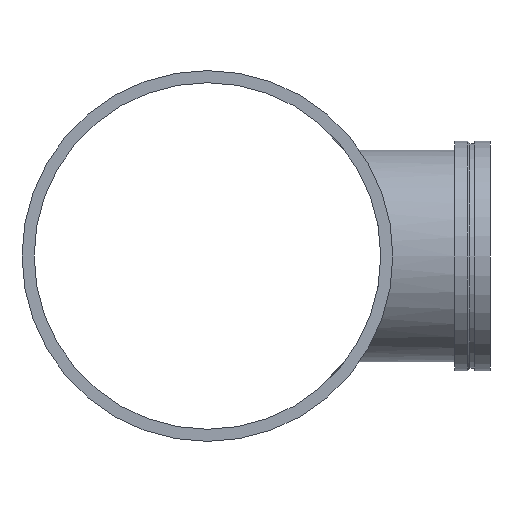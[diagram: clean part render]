
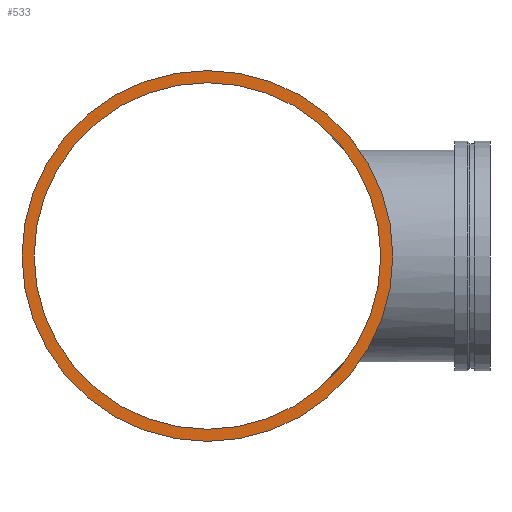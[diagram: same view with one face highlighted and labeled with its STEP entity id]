
A CAD part, left-side view. The second image highlights one B-rep face of the part: STEP entity #533.
In plain terms, the highlighted planar face has unit normal (-1, 0, 0).
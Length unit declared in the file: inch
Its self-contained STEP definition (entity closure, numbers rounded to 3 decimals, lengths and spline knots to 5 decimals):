
#58=FACE_BOUND('',#128,.T.);
#67=PLANE('',#626);
#92=FACE_OUTER_BOUND('',#127,.T.);
#127=EDGE_LOOP('',(#465,#466));
#128=EDGE_LOOP('',(#467,#468));
#151=CIRCLE('',#587,21.);
#152=CIRCLE('',#588,21.);
#175=CIRCLE('',#624,19.625);
#176=CIRCLE('',#625,19.625);
#239=VERTEX_POINT('',#1153);
#240=VERTEX_POINT('',#1155);
#263=VERTEX_POINT('',#1222);
#264=VERTEX_POINT('',#1224);
#299=EDGE_CURVE('',#239,#240,#151,.T.);
#300=EDGE_CURVE('',#240,#239,#152,.T.);
#331=EDGE_CURVE('',#264,#263,#175,.T.);
#332=EDGE_CURVE('',#263,#264,#176,.T.);
#465=ORIENTED_EDGE('',*,*,#300,.F.);
#466=ORIENTED_EDGE('',*,*,#299,.F.);
#467=ORIENTED_EDGE('',*,*,#331,.T.);
#468=ORIENTED_EDGE('',*,*,#332,.T.);
#533=ADVANCED_FACE('',(#92,#58),#67,.T.);
#587=AXIS2_PLACEMENT_3D('',#1156,#716,#717);
#588=AXIS2_PLACEMENT_3D('',#1157,#718,#719);
#624=AXIS2_PLACEMENT_3D('',#1225,#798,#799);
#625=AXIS2_PLACEMENT_3D('',#1226,#800,#801);
#626=AXIS2_PLACEMENT_3D('',#1227,#802,#803);
#716=DIRECTION('center_axis',(1.,0.,0.));
#717=DIRECTION('ref_axis',(0.,0.,1.));
#718=DIRECTION('center_axis',(1.,0.,0.));
#719=DIRECTION('ref_axis',(0.,0.,1.));
#798=DIRECTION('center_axis',(1.,0.,0.));
#799=DIRECTION('ref_axis',(0.,0.,1.));
#800=DIRECTION('center_axis',(1.,0.,0.));
#801=DIRECTION('ref_axis',(0.,0.,1.));
#802=DIRECTION('center_axis',(-1.,0.,0.));
#803=DIRECTION('ref_axis',(0.,0.,-1.));
#1153=CARTESIAN_POINT('',(-35.5,21.,0.));
#1155=CARTESIAN_POINT('',(-35.5,-21.,0.));
#1156=CARTESIAN_POINT('Origin',(-35.5,0.,0.));
#1157=CARTESIAN_POINT('Origin',(-35.5,0.,0.));
#1222=CARTESIAN_POINT('',(-35.5,19.625,0.));
#1224=CARTESIAN_POINT('',(-35.5,-19.625,0.));
#1225=CARTESIAN_POINT('Origin',(-35.5,0.,0.));
#1226=CARTESIAN_POINT('Origin',(-35.5,0.,0.));
#1227=CARTESIAN_POINT('Origin',(-35.5,-21.,0.));
